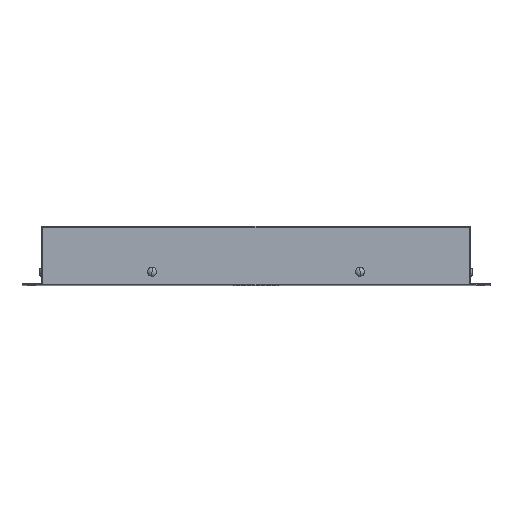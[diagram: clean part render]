
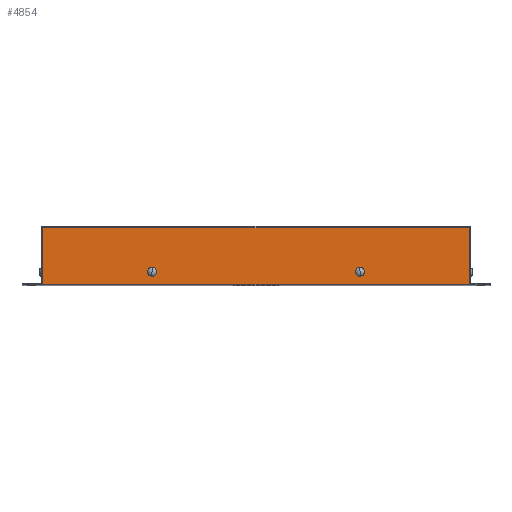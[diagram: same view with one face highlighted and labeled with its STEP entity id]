
A CAD part, top view. The second image highlights one B-rep face of the part: STEP entity #4854.
In plain terms, the highlighted planar face has unit normal (0, 0, 1).
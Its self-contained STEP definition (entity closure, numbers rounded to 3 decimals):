
#46 = CARTESIAN_POINT ( 'NONE',  ( -164., -1.5, 215. ) ) ;
#301 = DIRECTION ( 'NONE',  ( 0., -1., 0. ) ) ;
#365 = VECTOR ( 'NONE', #1388, 1000. ) ;
#487 = ORIENTED_EDGE ( 'NONE', *, *, #3337, .F. ) ;
#489 = ORIENTED_EDGE ( 'NONE', *, *, #3825, .F. ) ;
#607 = CIRCLE ( 'NONE', #1657, 3.45 ) ;
#731 = CARTESIAN_POINT ( 'NONE',  ( -164., 585.533, 215. ) ) ;
#814 = EDGE_LOOP ( 'NONE', ( #3747, #489 ) ) ;
#910 = EDGE_CURVE ( 'NONE', #3248, #2833, #3674, .T. ) ;
#985 = FACE_BOUND ( 'NONE', #1478, .T. ) ;
#1007 = DIRECTION ( 'NONE',  ( -0.976, 0.219, 0. ) ) ;
#1161 = CARTESIAN_POINT ( 'NONE',  ( 164., 585.533, 215. ) ) ;
#1321 = DIRECTION ( 'NONE',  ( -0.976, -0.219, 0. ) ) ;
#1388 = DIRECTION ( 'NONE',  ( -1., 0., 0. ) ) ;
#1402 = CARTESIAN_POINT ( 'NONE',  ( -83.367, 9.254, 215. ) ) ;
#1430 = CARTESIAN_POINT ( 'NONE',  ( 164., 42.5, 215. ) ) ;
#1445 = EDGE_CURVE ( 'NONE', #3880, #4092, #607, .T. ) ;
#1478 = EDGE_LOOP ( 'NONE', ( #5287, #3277 ) ) ;
#1528 = CIRCLE ( 'NONE', #2123, 3.45 ) ;
#1539 = DIRECTION ( 'NONE',  ( -1., 0., 0. ) ) ;
#1546 = LINE ( 'NONE', #1161, #2183 ) ;
#1583 = AXIS2_PLACEMENT_3D ( 'NONE', #1823, #1785, #1321 ) ;
#1657 = AXIS2_PLACEMENT_3D ( 'NONE', #4103, #5308, #2887 ) ;
#1720 = AXIS2_PLACEMENT_3D ( 'NONE', #3011, #1750, #2633 ) ;
#1750 = DIRECTION ( 'NONE',  ( 0., 0., 1. ) ) ;
#1785 = DIRECTION ( 'NONE',  ( 0., 0., 1. ) ) ;
#1807 = CIRCLE ( 'NONE', #4834, 3.45 ) ;
#1823 = CARTESIAN_POINT ( 'NONE',  ( 80., 8.5, 215. ) ) ;
#1880 = CARTESIAN_POINT ( 'NONE',  ( 76.633, 7.746, 215. ) ) ;
#1919 = CARTESIAN_POINT ( 'NONE',  ( 83.367, 9.254, 215. ) ) ;
#2112 = VERTEX_POINT ( 'NONE', #1402 ) ;
#2123 = AXIS2_PLACEMENT_3D ( 'NONE', #2534, #3046, #2639 ) ;
#2125 = FACE_OUTER_BOUND ( 'NONE', #4497, .T. ) ;
#2136 = VERTEX_POINT ( 'NONE', #1430 ) ;
#2183 = VECTOR ( 'NONE', #3916, 1000. ) ;
#2477 = EDGE_CURVE ( 'NONE', #2112, #3701, #1528, .T. ) ;
#2526 = CARTESIAN_POINT ( 'NONE',  ( -76.633, 7.746, 215. ) ) ;
#2534 = CARTESIAN_POINT ( 'NONE',  ( -80., 8.5, 215. ) ) ;
#2633 = DIRECTION ( 'NONE',  ( 1., 0., 0. ) ) ;
#2639 = DIRECTION ( 'NONE',  ( -0.976, 0.219, 0. ) ) ;
#2833 = VERTEX_POINT ( 'NONE', #46 ) ;
#2887 = DIRECTION ( 'NONE',  ( -0.976, -0.219, 0. ) ) ;
#2916 = ORIENTED_EDGE ( 'NONE', *, *, #910, .T. ) ;
#3011 = CARTESIAN_POINT ( 'NONE',  ( -165., 585.533, 215. ) ) ;
#3046 = DIRECTION ( 'NONE',  ( 0., 0., 1. ) ) ;
#3194 = EDGE_CURVE ( 'NONE', #4092, #3880, #4523, .T. ) ;
#3234 = VERTEX_POINT ( 'NONE', #4595 ) ;
#3248 = VERTEX_POINT ( 'NONE', #3742 ) ;
#3277 = ORIENTED_EDGE ( 'NONE', *, *, #3194, .F. ) ;
#3337 = EDGE_CURVE ( 'NONE', #3234, #2833, #4344, .T. ) ;
#3358 = PLANE ( 'NONE',  #1720 ) ;
#3369 = CARTESIAN_POINT ( 'NONE',  ( -165., 42.5, 215. ) ) ;
#3465 = DIRECTION ( 'NONE',  ( 0., 0., 1. ) ) ;
#3674 = LINE ( 'NONE', #731, #4548 ) ;
#3701 = VERTEX_POINT ( 'NONE', #2526 ) ;
#3742 = CARTESIAN_POINT ( 'NONE',  ( -164., 42.5, 215. ) ) ;
#3747 = ORIENTED_EDGE ( 'NONE', *, *, #2477, .F. ) ;
#3810 = ORIENTED_EDGE ( 'NONE', *, *, #4053, .T. ) ;
#3825 = EDGE_CURVE ( 'NONE', #3701, #2112, #1807, .T. ) ;
#3873 = CARTESIAN_POINT ( 'NONE',  ( -80., 8.5, 215. ) ) ;
#3880 = VERTEX_POINT ( 'NONE', #1880 ) ;
#3916 = DIRECTION ( 'NONE',  ( 0., 1., 0. ) ) ;
#4053 = EDGE_CURVE ( 'NONE', #2136, #3248, #4326, .T. ) ;
#4092 = VERTEX_POINT ( 'NONE', #1919 ) ;
#4103 = CARTESIAN_POINT ( 'NONE',  ( 80., 8.5, 215. ) ) ;
#4112 = EDGE_CURVE ( 'NONE', #3234, #2136, #1546, .T. ) ;
#4326 = LINE ( 'NONE', #3369, #365 ) ;
#4344 = LINE ( 'NONE', #4372, #5179 ) ;
#4372 = CARTESIAN_POINT ( 'NONE',  ( -165., -1.5, 215. ) ) ;
#4497 = EDGE_LOOP ( 'NONE', ( #3810, #2916, #487, #5036 ) ) ;
#4523 = CIRCLE ( 'NONE', #1583, 3.45 ) ;
#4548 = VECTOR ( 'NONE', #301, 1000. ) ;
#4595 = CARTESIAN_POINT ( 'NONE',  ( 164., -1.5, 215. ) ) ;
#4705 = FACE_BOUND ( 'NONE', #814, .T. ) ;
#4834 = AXIS2_PLACEMENT_3D ( 'NONE', #3873, #3465, #1007 ) ;
#4854 = ADVANCED_FACE ( 'NONE', ( #4705, #985, #2125 ), #3358, .T. ) ;
#5036 = ORIENTED_EDGE ( 'NONE', *, *, #4112, .T. ) ;
#5179 = VECTOR ( 'NONE', #1539, 1000. ) ;
#5287 = ORIENTED_EDGE ( 'NONE', *, *, #1445, .F. ) ;
#5308 = DIRECTION ( 'NONE',  ( 0., 0., 1. ) ) ;
